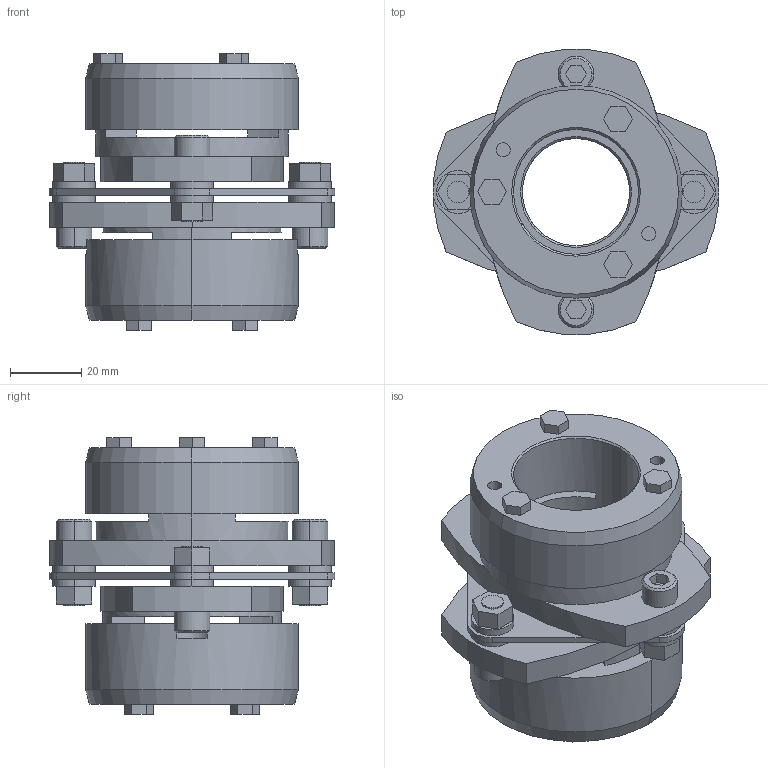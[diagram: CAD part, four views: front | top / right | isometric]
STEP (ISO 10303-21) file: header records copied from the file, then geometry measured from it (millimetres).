
FILE_DESCRIPTION((''),'2;1');
FILE_NAME('LCS-80T7-30×35.stp','2011-09-12T17:02:29',(''),(''),'AutoCAD STEP 2000i','AutoCAD 2000i',', , ');
FILE_SCHEMA(('CONFIG_CONTROL_DESIGN'));
Length unit declared in the file: millimetre
Products named in the file (13): LCS-80T7-30×35; 忣兜1; LC80T7-T035; LC80T7-T032; LC80T7-T030-1; LC80T7-T030; LC80T7-T028; LC80T7-T024; LC80T7-T022; LC80T7-T019; LC80T7-T017-1; LC80T7-T017; LCS80-ITA
Assembly tree (12 placements, depth 2):
  LCS-80T7-30×35
    忣兜1
    LC80T7-T035
    LC80T7-T032
    LC80T7-T030-1
    LC80T7-T030
    LC80T7-T028
    LC80T7-T024
    LC80T7-T022
    LC80T7-T019
    LC80T7-T017-1
    LC80T7-T017
    LCS80-ITA
Bounding box: 80 x 79.95 x 77.35 mm (x, y, z)
Volume: 137188.9 mm3; surface area: 42964.2 mm2
Topology: 1 solids, 1 shells, 246 faces, 606 edges, 396 vertices
Faces by surface type: plane 144, cylinder 82, cone 20
Entity records: 7589 total; most frequent: DIRECTION 1336, CARTESIAN_POINT 1261, ORIENTED_EDGE 1212, EDGE_CURVE 606, AXIS2_PLACEMENT_3D 471, VERTEX_POINT 396, VECTOR 394, LINE 394
